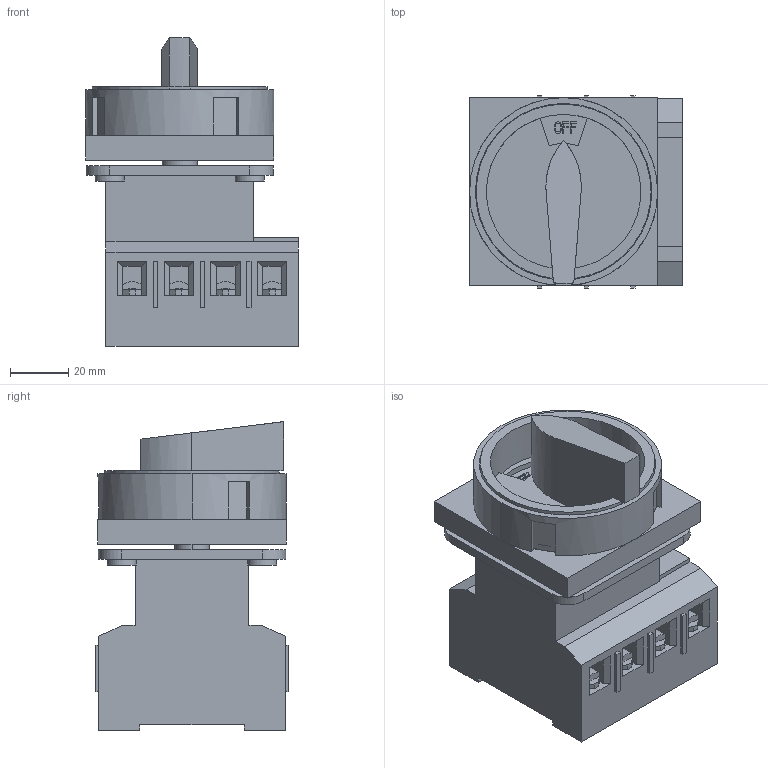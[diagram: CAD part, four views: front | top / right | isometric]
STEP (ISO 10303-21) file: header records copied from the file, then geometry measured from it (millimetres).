
FILE_DESCRIPTION((''),'2;1');
FILE_NAME('NH40-63-3-3_ASM','2021-06-16T',('wangpeng'),(''),'PRO/ENGINEER BY PARAMETRIC TECHNOLOGY CORPORATION, 2009460','PRO/ENGINEER BY PARAMETRIC TECHNOLOGY CORPORATION, 2009460','');
FILE_SCHEMA(('AUTOMOTIVE_DESIGN { 1 0 10303 214 1 1 1 1 }'));
Length unit declared in the file: millimetre
Products named in the file (5): ZTL63; CT63; DP63; LDM4; NH40-63-3-3_ASM
Assembly tree (21 placements, depth 2):
  NH40-63-3-3_ASM
    ZTL63
    CT63  x4
    DP63  x8
    LDM4  x8
Bounding box: 73 x 66 x 105.9 mm (x, y, z)
Volume: 265844.5 mm3; surface area: 77403.9 mm2
Topology: 21 solids, 21 shells, 852 faces, 2382 edges, 1578 vertices
Faces by surface type: plane 573, cylinder 199, bspline 48, cone 16, sphere 16
Entity records: 29038 total; most frequent: CARTESIAN_POINT 14118, ORIENTED_EDGE 3288, DIRECTION 2650, EDGE_CURVE 1644, VERTEX_POINT 1100, VECTOR 1074, LINE 1074, AXIS2_PLACEMENT_3D 788
